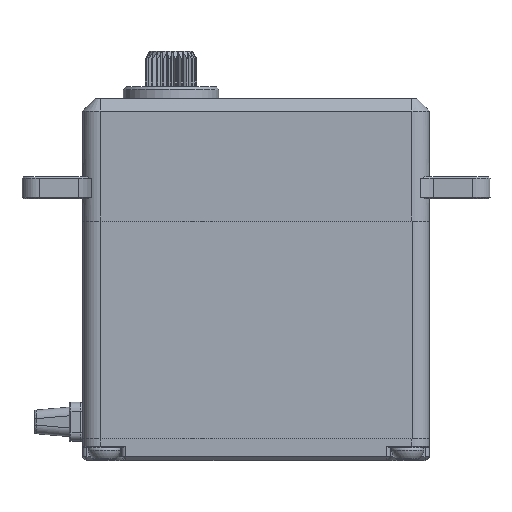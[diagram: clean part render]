
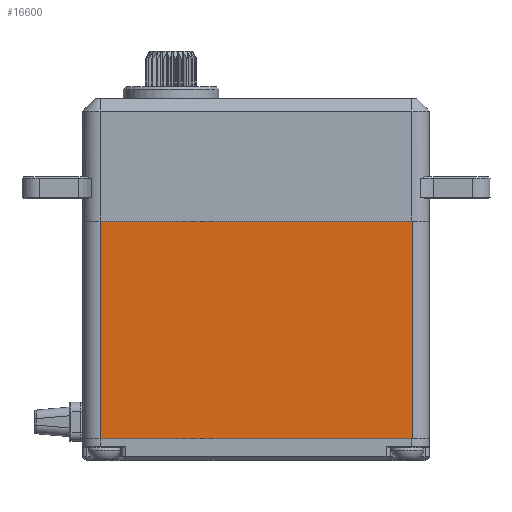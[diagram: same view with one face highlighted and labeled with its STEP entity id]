
A CAD part, top view. The second image highlights one B-rep face of the part: STEP entity #16600.
In plain terms, the highlighted planar face has unit normal (0, 0, 1).
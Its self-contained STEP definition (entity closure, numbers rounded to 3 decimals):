
#5506=DIRECTION('',(0.,1.,0.));
#5507=VECTOR('',#5506,25.08);
#5508=CARTESIAN_POINT('',(18.,-25.09,10.));
#5509=LINE('',#5508,#5507);
#5539=DIRECTION('',(1.,0.,0.));
#5540=VECTOR('',#5539,36.);
#5541=CARTESIAN_POINT('',(-18.,-25.09,10.));
#5542=LINE('',#5541,#5540);
#5543=DIRECTION('',(0.,1.,0.));
#5544=VECTOR('',#5543,25.08);
#5545=CARTESIAN_POINT('',(-18.,-25.09,10.));
#5546=LINE('',#5545,#5544);
#5547=DIRECTION('',(1.,0.,0.));
#5548=VECTOR('',#5547,36.);
#5549=CARTESIAN_POINT('',(-18.,-0.01,10.));
#5550=LINE('',#5549,#5548);
#9477=CARTESIAN_POINT('',(-18.,-0.01,10.));
#9478=CARTESIAN_POINT('',(18.,-0.01,10.));
#9479=VERTEX_POINT('',#9477);
#9480=VERTEX_POINT('',#9478);
#9537=CARTESIAN_POINT('',(-18.,-25.09,10.));
#9538=CARTESIAN_POINT('',(18.,-25.09,10.));
#9539=VERTEX_POINT('',#9537);
#9540=VERTEX_POINT('',#9538);
#16589=CARTESIAN_POINT('',(-20.,0.,10.));
#16590=DIRECTION('',(0.,0.,1.));
#16591=DIRECTION('',(1.,0.,0.));
#16592=AXIS2_PLACEMENT_3D('',#16589,#16590,#16591);
#16593=PLANE('',#16592);
#16594=ORIENTED_EDGE('',*,*,#14959,.F.);
#16595=ORIENTED_EDGE('',*,*,#15030,.T.);
#16596=ORIENTED_EDGE('',*,*,#14467,.T.);
#16597=ORIENTED_EDGE('',*,*,#16549,.F.);
#16598=EDGE_LOOP('',(#16594,#16595,#16596,#16597));
#16599=FACE_OUTER_BOUND('',#16598,.F.);
#14467=EDGE_CURVE('',#9479,#9480,#5550,.T.);
#14959=EDGE_CURVE('',#9539,#9540,#5542,.T.);
#15030=EDGE_CURVE('',#9539,#9479,#5546,.T.);
#16549=EDGE_CURVE('',#9540,#9480,#5509,.T.);
#16600=ADVANCED_FACE('',(#16599),#16593,.T.);
